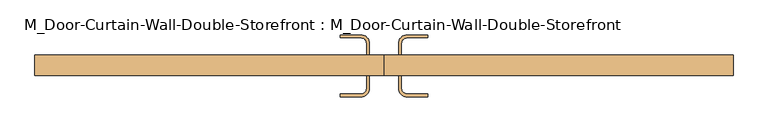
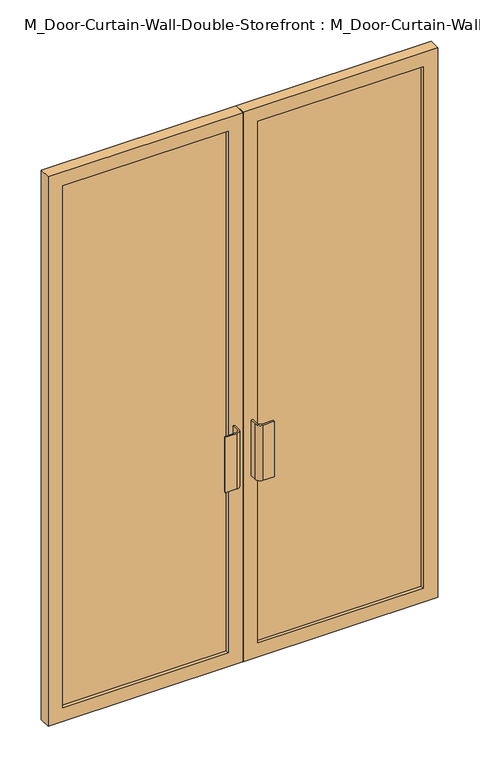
"""IFC4 building model written with IfcOpenShell, lengths in millimetres: door geometry, M_Door-Curtain-Wall-Double-Storefront : M_Door-Curtain-Wall-Double-Storefront."""

from ifc_helpers import new_model, si_unit, point, frame, frame_2d, origin, place, context, project, spatial, polyline, circle_curve, trimmed, segment, composite_curve, outline, extrude, source, transform, mapped, element, save


def m_door_curtain_wall_double_storefront_m_door_curtain_wall_8dde1bc9(model_context):
    return source(origin(), model_context, "Body", "SweptSolid", [
        extrude(outline(polyline([(2275.0, 0.8168501), (0.0, 0.8168501), (0.0, 763.3333332), (2275.0, 763.3333332), (2275.0, 0.8168501)]), holes=[polyline([(2217.85, 57.9668501), (2217.85, 706.1833332), (57.15, 706.1833332), (57.15, 57.9668501), (2217.85, 57.9668501)])]), frame((0.0, 15.55, 0.0), z_axis=(0.0, 1.0, 0.0), x_axis=(0.0, 0.0, 1.0)), (0.0, 0.0, 1.0), 44.45),
        extrude(outline(polyline([(2275.0, -0.7706499), (2275.0, -763.3333332), (0.0, -763.3333332), (0.0, -0.7706499), (2275.0, -0.7706499)]), holes=[polyline([(2217.85, -706.1833332), (2217.85, -57.9206499), (57.15, -57.9206499), (57.15, -706.1833332), (2217.85, -706.1833332)])]), frame((0.0, 15.55, 0.0), z_axis=(0.0, 1.0, 0.0), x_axis=(0.0, 0.0, 1.0)), (0.0, 0.0, 1.0), 44.45),
        extrude(outline(polyline([(706.1833332, 28.25), (57.9668501, 28.25), (57.9668501, 47.3), (706.1833332, 47.3), (706.1833332, 28.25)])), frame((0.0, 0.0, 57.15), z_axis=(0.0, 0.0, 1.0), x_axis=(1.0, 0.0, 0.0)), (0.0, 0.0, 1.0), 2160.7),
        extrude(outline(polyline([(-57.9206499, 28.25), (-706.1833332, 28.25), (-706.1833332, 47.3), (-57.9206499, 47.3), (-57.9206499, 28.25)])), frame((0.0, 0.0, 57.15), z_axis=(0.0, 0.0, 1.0), x_axis=(1.0, 0.0, 0.0)), (0.0, 0.0, 1.0), 2160.7),
        extrude(outline(composite_curve([segment(trimmed(circle_curve(frame_2d((-50.7768999, -12.7)), 19.05), [point((-31.7268999, -12.7))], [point((-50.7768999, -31.75))], False, "CARTESIAN"), True, "CONTINUOUS"), segment(polyline([(-50.7768999, -31.75), (-95.2268999, -31.75), (-95.2268999, -25.4), (-50.7768999, -25.4)]), True, "CONTINUOUS"), segment(trimmed(circle_curve(frame_2d((-50.7768999, -12.7)), 12.7), [point((-50.7768999, -25.4))], [point((-38.0768999, -12.7))], True, "CARTESIAN"), True, "CONTINUOUS"), segment(polyline([(-38.0768999, -12.7), (-38.0768999, 15.55), (-31.7268999, 15.55), (-31.7268999, -12.7)]), True, "CONTINUOUS")], self_intersect=False)), frame((0.0, 0.0, 762.0), z_axis=(0.0, 0.0, 1.0), x_axis=(1.0, 0.0, 0.0)), (0.0, 0.0, 1.0), 228.6),
        extrude(outline(composite_curve([segment(polyline([(31.7731001, -12.7), (31.7731001, 15.55), (38.1231001, 15.55), (38.1231001, -12.7)]), True, "CONTINUOUS"), segment(trimmed(circle_curve(frame_2d((50.8231001, -12.7)), 12.7), [point((38.1231001, -12.7))], [point((50.8231001, -25.4))], True, "CARTESIAN"), True, "CONTINUOUS"), segment(polyline([(50.8231001, -25.4), (95.2731001, -25.4), (95.2731001, -31.75), (50.8231001, -31.75)]), True, "CONTINUOUS"), segment(trimmed(circle_curve(frame_2d((50.8231001, -12.7)), 19.05), [point((50.8231001, -31.75))], [point((31.7731001, -12.7))], False, "CARTESIAN"), True, "CONTINUOUS")], self_intersect=False)), frame((0.0, 0.0, 762.0), z_axis=(0.0, 0.0, 1.0), x_axis=(1.0, 0.0, 0.0)), (0.0, 0.0, 1.0), 228.6),
        extrude(outline(composite_curve([segment(polyline([(-31.7268999, 85.4), (-31.7268999, 60.0), (-38.0768999, 60.0), (-38.0768999, 85.4)]), True, "CONTINUOUS"), segment(trimmed(circle_curve(frame_2d((-50.7768999, 85.4)), 12.7), [point((-38.0768999, 85.4))], [point((-50.7768999, 98.1))], True, "CARTESIAN"), True, "CONTINUOUS"), segment(polyline([(-50.7768999, 98.1), (-95.2268999, 98.1), (-95.2268999, 104.45), (-50.7768999, 104.45)]), True, "CONTINUOUS"), segment(trimmed(circle_curve(frame_2d((-50.7768999, 85.4)), 19.05), [point((-50.7768999, 104.45))], [point((-31.7268999, 85.4))], False, "CARTESIAN"), True, "CONTINUOUS")], self_intersect=False)), frame((0.0, 0.0, 762.0), z_axis=(0.0, 0.0, 1.0), x_axis=(1.0, 0.0, 0.0)), (0.0, 0.0, 1.0), 228.6),
        extrude(outline(composite_curve([segment(trimmed(circle_curve(frame_2d((50.8231001, 85.4)), 19.05), [point((31.7731001, 85.4))], [point((50.8231001, 104.45))], False, "CARTESIAN"), True, "CONTINUOUS"), segment(polyline([(50.8231001, 104.45), (95.2731001, 104.45), (95.2731001, 98.1), (50.8231001, 98.1)]), True, "CONTINUOUS"), segment(trimmed(circle_curve(frame_2d((50.8231001, 85.4)), 12.7), [point((50.8231001, 98.1))], [point((38.1231001, 85.4))], True, "CARTESIAN"), True, "CONTINUOUS"), segment(polyline([(38.1231001, 85.4), (38.1231001, 60.0), (31.7731001, 60.0), (31.7731001, 85.4)]), True, "CONTINUOUS")], self_intersect=False)), frame((0.0, 0.0, 762.0), z_axis=(0.0, 0.0, 1.0), x_axis=(1.0, 0.0, 0.0)), (0.0, 0.0, 1.0), 228.6),
    ])


if __name__ == "__main__":
    model = new_model("IFC4")
    model_context = context("Model", 3, world=origin())
    ifc_project = project(units=[si_unit("LENGTHUNIT", "METRE", prefix="MILLI")], contexts=[model_context])
    site = spatial("IfcSite", under=ifc_project)
    building = spatial("IfcBuilding", under=site)
    placement = place(None, origin())
    m_door_curtain_wall_double_storefront_m_door_curtain_wall_shape = m_door_curtain_wall_double_storefront_m_door_curtain_wall_8dde1bc9(model_context)
    element("IfcDoor", 1, ObjectType="M_Door-Curtain-Wall-Double-Storefront : M_Door-Curtain-Wall-Double-Storefront", at=placement, inside=building, context=model_context, shape_type="MappedRepresentation", body=[
        mapped(m_door_curtain_wall_double_storefront_m_door_curtain_wall_shape, transform((0.0, 0.0, 0.0), x_axis=(1.0, 0.0, 0.0), y_axis=(0.0, 1.0, 0.0), z_axis=(0.0, 0.0, 1.0))),
    ])
    save(model, "model.ifc")
